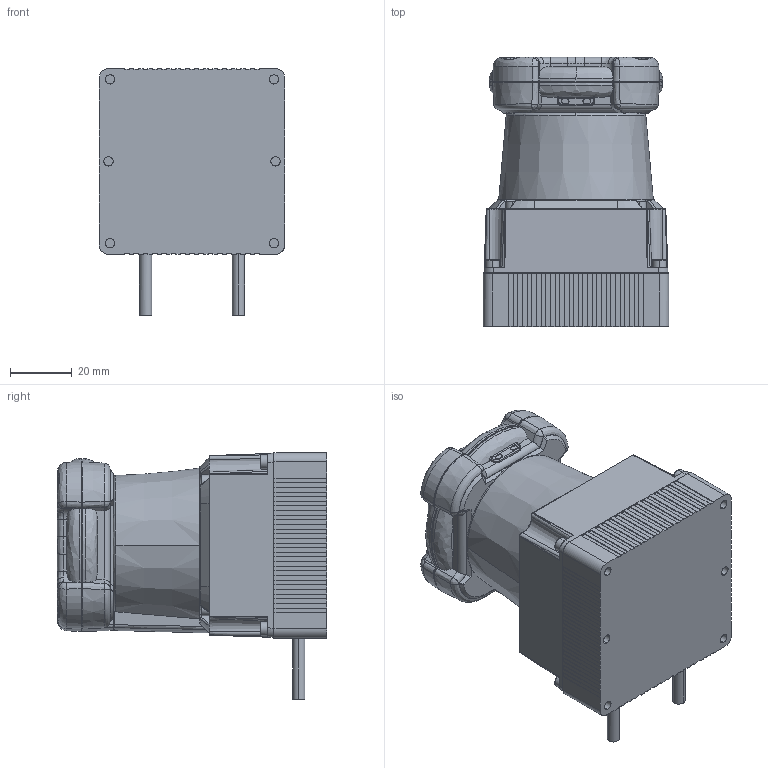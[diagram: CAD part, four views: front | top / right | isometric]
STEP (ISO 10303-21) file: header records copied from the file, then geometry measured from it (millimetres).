
FILE_DESCRIPTION (( 'STEP AP203' ), '1' );
FILE_NAME ('UTM 3D DATA.STEP', '2009-07-27T05:53:39', ( 'hokuyo' ), ( '' ), 'SwSTEP 2.0', 'SolidWorks 2008', '' );
FILE_SCHEMA (( 'CONFIG_CONTROL_DESIGN' ));
Length unit declared in the file: millimetre
Products named in the file (1): UTM 3D DATA
Bounding box: 60 x 87 x 79.8 mm (x, y, z)
Volume: 235768.8 mm3; surface area: 28426.2 mm2
Topology: 1 solids, 1 shells, 1102 faces, 2936 edges, 1850 vertices
Faces by surface type: plane 605, bspline 221, cylinder 146, cone 130
Entity records: 50726 total; most frequent: CARTESIAN_POINT 27378, ORIENTED_EDGE 5822, DIRECTION 3388, EDGE_CURVE 2911, VERTEX_POINT 1850, B_SPLINE_CURVE_WITH_KNOTS 1441, AXIS2_PLACEMENT_3D 1179, EDGE_LOOP 1141
